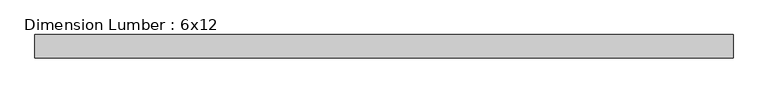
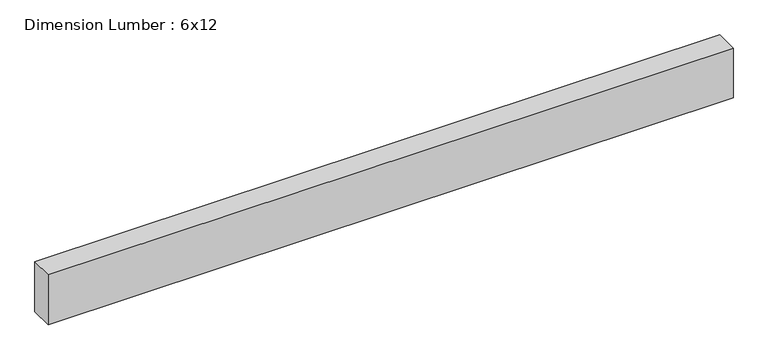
"""IFC4 building model written with IfcOpenShell, lengths in millimetres: beam geometry, Dimension Lumber : 6x12."""

from ifc_helpers import new_model, si_unit, frame, origin, place, context, project, spatial, polyline, outline, extrude, source, transform, mapped, element, save


def dimension_lumber_6x12_6beca198(model_context):
    return source(origin(), model_context, "Body", "SweptSolid", [
        extrude(outline(polyline([(1981.2, 66.675), (1981.2, -66.675), (-1981.2, -66.675), (-1981.2, 66.675), (1981.2, 66.675)])), frame((0.0, 0.0, -152.4), z_axis=(0.0, 0.0, 1.0), x_axis=(1.0, 0.0, 0.0)), (0.0, 0.0, 1.0), 304.8),
    ])


if __name__ == "__main__":
    model = new_model("IFC4")
    model_context = context("Model", 3, world=origin())
    ifc_project = project(units=[si_unit("LENGTHUNIT", "METRE", prefix="MILLI")], contexts=[model_context])
    site = spatial("IfcSite", under=ifc_project)
    building = spatial("IfcBuilding", under=site)
    placement = place(None, origin())
    dimension_lumber_6x12_shape = dimension_lumber_6x12_6beca198(model_context)
    element("IfcBeam", 1, ObjectType="Dimension Lumber : 6x12", at=placement, inside=building, context=model_context, shape_type="MappedRepresentation", body=[
        mapped(dimension_lumber_6x12_shape, transform((0.0, 0.0, 0.0), x_axis=(1.0, 0.0, 0.0), y_axis=(0.0, 1.0, 0.0), z_axis=(0.0, 0.0, 1.0))),
    ])
    save(model, "model.ifc")
